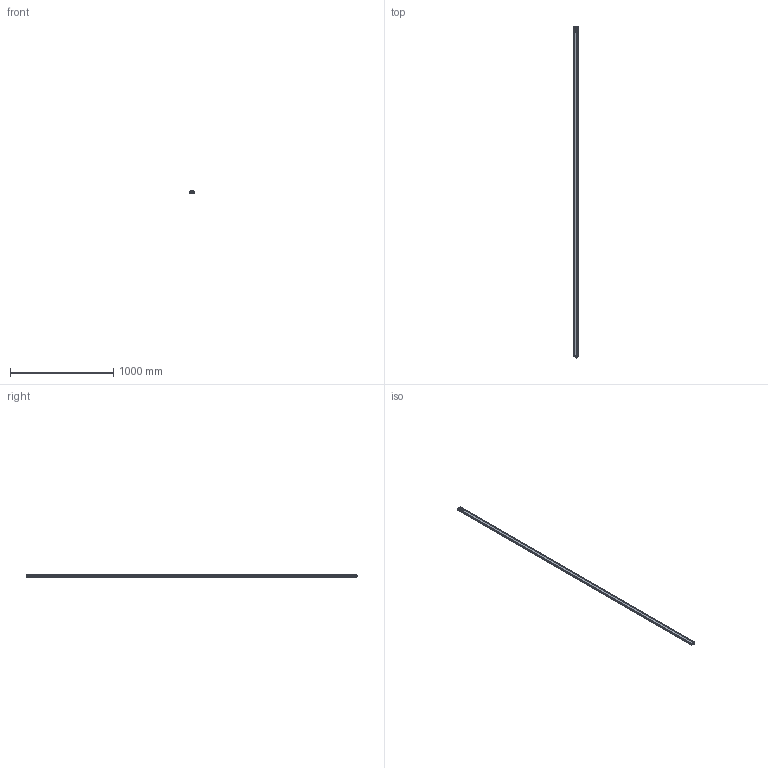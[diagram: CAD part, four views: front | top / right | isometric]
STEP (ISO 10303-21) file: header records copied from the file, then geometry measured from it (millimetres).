
FILE_DESCRIPTION(/* description */ (''),/* implementation_level */ '2;1');
FILE_NAME(/* name */ 'C:\Users\andre\SynologyDrive\Optoscan\Libreria Componenti\00 - Barriere\Polaris sorgente\Polaris_3200_RX.stp',/* time_stamp */ '2021-06-04T12:19:36+02:00',/* author */ ('andre'),/* organization */ (''),/* preprocessor_version */ 'ST-DEVELOPER v18',/* originating_system */ 'Autodesk Inventor 2020',/* authorisation */ '');
FILE_SCHEMA (('AUTOMOTIVE_DESIGN { 1 0 10303 214 3 1 1 }'));
Length unit declared in the file: millimetre
Products named in the file (1): Polaris_3200_RX
Bounding box: 40.5 x 3219.3 x 20.75 mm (x, y, z)
Volume: 631152.7 mm3; surface area: 864606.2 mm2
Topology: 19 solids, 19 shells, 716 faces, 1871 edges, 1227 vertices
Faces by surface type: plane 322, cylinder 216, bspline 94, torus 66, sphere 10, cone 8
Full cylindrical faces by diameter (mm): 1 x24, 2.5 x4, 3 x8, 3.5 x4, 5.5 x4, 8 x1, 10 x2, 10.5 x2, 11.75 x9, 14.5 x1, 15.7 x1, 17.5 x1
Entity records: 28363 total; most frequent: CARTESIAN_POINT 10122, ORIENTED_EDGE 3716, DIRECTION 3484, EDGE_CURVE 1858, AXIS2_PLACEMENT_3D 1249, VERTEX_POINT 1227, LINE 986, VECTOR 986
